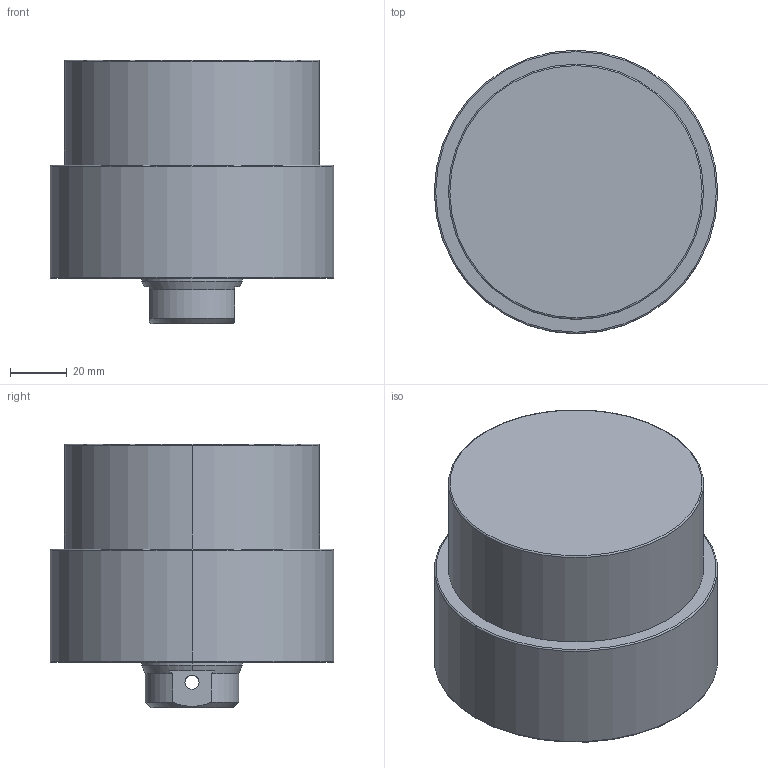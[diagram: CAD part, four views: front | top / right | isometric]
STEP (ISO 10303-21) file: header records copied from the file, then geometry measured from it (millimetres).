
FILE_DESCRIPTION (( 'STEP AP203' ), '1' );
FILE_NAME ('CLLU-090GB-015.STEP', '2020-01-11T00:52:20', ( '' ), ( '' ), 'SwSTEP 2.0', 'SolidWorks 2015', '' );
FILE_SCHEMA (( 'CONFIG_CONTROL_DESIGN' ));
Length unit declared in the file: millimetre
Products named in the file (1): CLLU-090GB-015
Bounding box: 100 x 100 x 93 mm (x, y, z)
Volume: 544843.6 mm3; surface area: 45434.1 mm2
Topology: 1 solids, 1 shells, 66 faces, 154 edges, 87 vertices
Faces by surface type: cylinder 26, cone 24, plane 10, torus 6
Entity records: 2029 total; most frequent: CARTESIAN_POINT 458, DIRECTION 342, ORIENTED_EDGE 288, EDGE_CURVE 144, AXIS2_PLACEMENT_3D 143, VERTEX_POINT 87, EDGE_LOOP 77, CIRCLE 76
